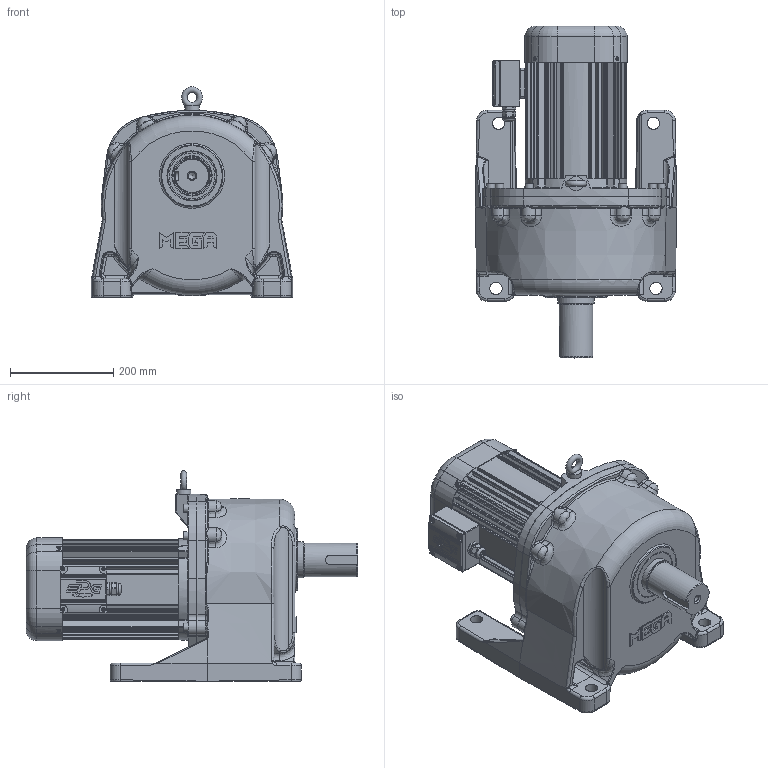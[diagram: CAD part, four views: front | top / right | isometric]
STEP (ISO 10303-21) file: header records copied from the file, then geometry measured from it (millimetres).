
FILE_DESCRIPTION(/* description */ (''),/* implementation_level */ '2;1');
FILE_NAME(/* name */ 'Z:\동력 3D 파일\PML235_2.2kW_3D.stp',/* time_stamp */ '2021-11-30T15:44:39+09:00',/* author */ ('jaebok'),/* organization */ (''),/* preprocessor_version */ 'ST-DEVELOPER v18.1',/* originating_system */ 'Autodesk Inventor 2022',/* authorisation */ '');
FILE_SCHEMA (('AUTOMOTIVE_DESIGN { 1 0 10303 214 3 1 1 }'));
Length unit declared in the file: millimetre
Products named in the file (1): 부품14
Bounding box: 390 x 643 x 407.5 mm (x, y, z)
Volume: 12009222.3 mm3; surface area: 1959191.4 mm2
Topology: 2 solids, 41 shells, 3524 faces, 8861 edges, 5348 vertices
Faces by surface type: plane 1114, cylinder 987, bspline 737, torus 362, cone 221, sphere 103
Full cylindrical faces by diameter (mm): 3.25 x1, 3.5 x4, 3.6 x4, 4 x21, 5 x13, 6 x5, 6.647 x12, 7 x8, 8 x5, 8.376 x1, 9 x4, 10 x9, 10.106 x1, 12 x9, 12.5 x1, 13 x8, 13.835 x1, 15 x1, 16 x8, 20 x2, 21 x1, 23.6 x1, 24 x5, 25 x1, 28 x1, 31 x1, 36 x1, 48 x1, 50 x2, 55 x1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
Entity records: 141748 total; most frequent: CARTESIAN_POINT 57640, ORIENTED_EDGE 17336, DIRECTION 16482, EDGE_CURVE 8668, AXIS2_PLACEMENT_3D 6685, VERTEX_POINT 5342, EDGE_LOOP 3776, CIRCLE 3700
